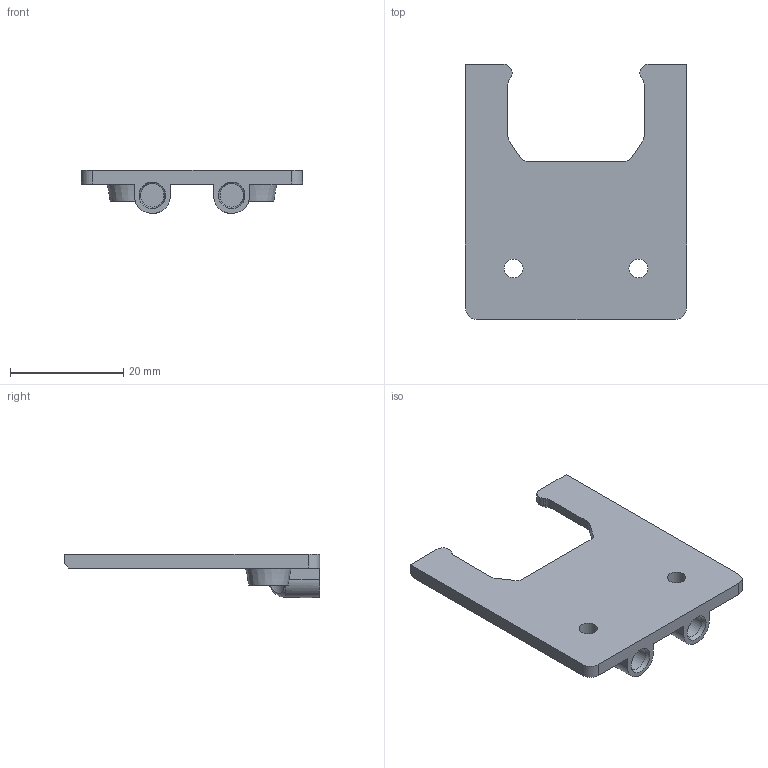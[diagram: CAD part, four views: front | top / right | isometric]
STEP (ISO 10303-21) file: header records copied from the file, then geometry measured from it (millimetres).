
FILE_DESCRIPTION(/* description */ (''),/* implementation_level */ '2;1');
FILE_NAME(/* name */ 'HMG7-Creality-Spider-350-Skirt.step',/* time_stamp */ '2022-11-01T22:10:41-07:00',/* author */ (''),/* organization */ (''),/* preprocessor_version */ 'ST-DEVELOPER v19.2',/* originating_system */ 'Autodesk Translation Framework v11.17.0.187',/* authorisation */ '');
FILE_SCHEMA (('AUTOMOTIVE_DESIGN { 1 0 10303 214 3 1 1 }'));
Length unit declared in the file: millimetre
Products named in the file (3): GEN_7_1.5; Creality_Spider_350; Spider_350_Skirt (Flat Base)
Assembly tree (2 placements, depth 3):
  GEN_7_1.5
    Creality_Spider_350
      Spider_350_Skirt (Flat Base)
Bounding box: 39 x 45.03 x 7.6 mm (x, y, z)
Volume: 3597.1 mm3; surface area: 3704.1 mm2
Topology: 1 solids, 1 shells, 71 faces, 181 edges, 114 vertices
Faces by surface type: plane 35, cylinder 22, cone 12, bspline 2
Full cylindrical faces by diameter (mm): 3.3 x2, 4.15 x2, 6 x2
Entity records: 2304 total; most frequent: CARTESIAN_POINT 483, DIRECTION 375, ORIENTED_EDGE 362, EDGE_CURVE 181, AXIS2_PLACEMENT_3D 134, VERTEX_POINT 114, LINE 107, VECTOR 107
